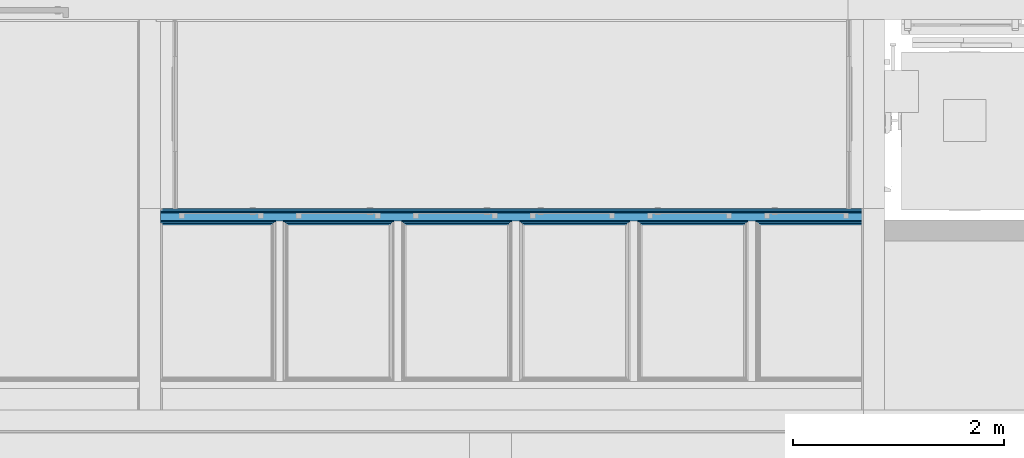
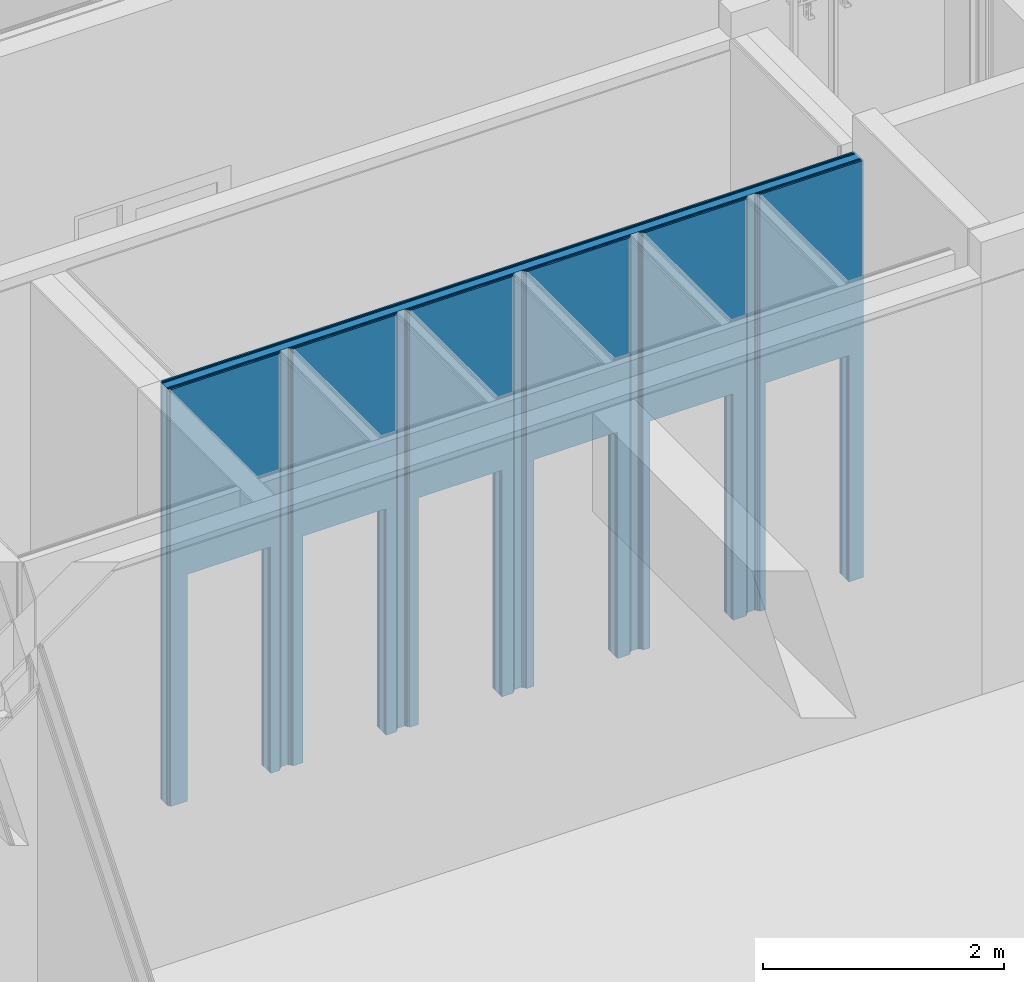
# One storey, part 115 of 260: 7 building element parts, 6 openings, 1 element without a shape of its own.
"""IFC2X3 building model written with IfcOpenShell, lengths in millimetres."""

from ifc_helpers import new_model, entity, si_unit, converted_unit, derived_unit, money_unit, direction, frame, origin_with_axes, place, context, subcontext, project, spatial, faceted_brep, material, type_object, element, aggregate, save


model = new_model("IFC2X3")

# Units and contexts
model_context = context("Model", 3, precision=0.01, world=origin_with_axes(), true_north=direction((0.0, 1.0)))
body_context = subcontext(model_context, "Body", "Model", "MODEL_VIEW")
ifc_project = project(units=[si_unit("LENGTHUNIT", "METRE", prefix="MILLI"), si_unit("AREAUNIT", "SQUARE_METRE"), si_unit("VOLUMEUNIT", "CUBIC_METRE"), converted_unit("PLANEANGLEUNIT", "DEGREE", entity("IfcPlaneAngleMeasure", 0.0174532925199), si_unit("PLANEANGLEUNIT", "RADIAN"), dimensions=[0, 0, 0, 0, 0, 0, 0]), money_unit("EUR"), converted_unit("TIMEUNIT", "Year", entity("IfcTimeMeasure", 31556926.0), si_unit("TIMEUNIT", "SECOND"), dimensions=[0, 0, 1, 0, 0, 0, 0]), si_unit("MASSUNIT", "GRAM", prefix="KILO"), si_unit("THERMODYNAMICTEMPERATUREUNIT", "DEGREE_CELSIUS"), si_unit("LUMINOUSINTENSITYUNIT", "LUMEN"), si_unit("ENERGYUNIT", "JOULE", prefix="MEGA"), derived_unit("THERMALCONDUCTANCEUNIT", [(si_unit("POWERUNIT", "WATT"), 1), (si_unit("LENGTHUNIT", "METRE"), -1), (si_unit("THERMODYNAMICTEMPERATUREUNIT", "KELVIN"), -1)]), derived_unit("SPECIFICHEATCAPACITYUNIT", [(si_unit("ENERGYUNIT", "JOULE"), 1), (si_unit("MASSUNIT", "GRAM", prefix="KILO"), -1), (si_unit("THERMODYNAMICTEMPERATUREUNIT", "KELVIN"), -1)]), derived_unit("MASSDENSITYUNIT", [(si_unit("MASSUNIT", "GRAM", prefix="KILO"), 1), (si_unit("VOLUMEUNIT", "CUBIC_METRE"), -1)])], contexts=[model_context])

# Site, building, storey
site_placement = place(None, origin_with_axes())
site = spatial("IfcSite", under=ifc_project, at=site_placement, Name="Kolde pst 67a", CompositionType="ELEMENT")
building_placement = place(site_placement, origin_with_axes())
building = spatial("IfcBuilding", under=site, at=building_placement, Name="Riigigümnaasium", CompositionType="ELEMENT")
storey_placement = place(building_placement, origin_with_axes())
storey = spatial("IfcBuildingStorey", under=building, at=storey_placement, Name="1. korrus", CompositionType="ELEMENT", Elevation=0.0)

# Wall, openings, building element parts
wall_type = type_object("IfcWallType", Name="SS-MK-7,5/1_plaaditud 155", PredefinedType="NOTDEFINED")
wall_placement = place(storey_placement, frame((39109.8305113, 47623.4999608, 0.0), z_axis=(0.0, 0.0, 1.0), x_axis=(1.0, 0.0, 0.0)))
wall = element("IfcWall", 1, at=wall_placement, inside=storey, type_object=wall_type, Name="Sisesein")
opening_1_placement = place(wall_placement, frame((6125.15494935, 0.0, 0.0), z_axis=(0.0, 0.0, 1.0), x_axis=(1.0, 0.0, 0.0)))
element("IfcOpeningElement", 2, at=opening_1_placement, cuts=wall, Name="Siseuks", context=body_context, shape_type="Brep", body=[
    faceted_brep([(400.0, -155.0, 2300.0), (400.0, -155.0, 0.0), (400.0, 310.0, 0.0), (400.0, 310.0, 2300.0), (-400.0, -155.0, 2300.0), (-400.0, -155.0, 0.0), (-400.0, 310.0, 0.0), (-400.0, 310.0, 2300.0)], [[[0, 1, 2, 3]], [[0, 4, 5, 1]], [[1, 5, 6, 2]], [[3, 2, 6, 7]], [[4, 0, 3, 7]], [[5, 4, 7, 6]]]),
])
opening_2_placement = place(wall_placement, frame((5015.15494935, 0.0, 0.0), z_axis=(0.0, 0.0, 1.0), x_axis=(1.0, 0.0, 0.0)))
element("IfcOpeningElement", 3, at=opening_2_placement, cuts=wall, Name="Siseuks", context=body_context, shape_type="Brep", body=[
    faceted_brep([(400.0, -155.0, 2300.0), (400.0, -155.0, 0.0), (400.0, 310.0, 0.0), (400.0, 310.0, 2300.0), (-400.0, -155.0, 2300.0), (-400.0, -155.0, 0.0), (-400.0, 310.0, 0.0), (-400.0, 310.0, 2300.0)], [[[0, 1, 2, 3]], [[0, 4, 5, 1]], [[1, 5, 6, 2]], [[3, 2, 6, 7]], [[4, 0, 3, 7]], [[5, 4, 7, 6]]]),
])
opening_3_placement = place(wall_placement, frame((3905.15494935, 0.0, 0.0), z_axis=(0.0, 0.0, 1.0), x_axis=(1.0, 0.0, 0.0)))
element("IfcOpeningElement", 4, at=opening_3_placement, cuts=wall, Name="Siseuks", context=body_context, shape_type="Brep", body=[
    faceted_brep([(400.0, -155.0, 2300.0), (400.0, -155.0, 0.0), (400.0, 310.0, 0.0), (400.0, 310.0, 2300.0), (-400.0, -155.0, 2300.0), (-400.0, -155.0, 0.0), (-400.0, 310.0, 0.0), (-400.0, 310.0, 2300.0)], [[[0, 1, 2, 3]], [[0, 4, 5, 1]], [[1, 5, 6, 2]], [[3, 2, 6, 7]], [[4, 0, 3, 7]], [[5, 4, 7, 6]]]),
])
opening_4_placement = place(wall_placement, frame((2795.15494935, 0.0, 0.0), z_axis=(0.0, 0.0, 1.0), x_axis=(1.0, 0.0, 0.0)))
element("IfcOpeningElement", 5, at=opening_4_placement, cuts=wall, Name="Siseuks", context=body_context, shape_type="Brep", body=[
    faceted_brep([(-400.0, 310.0, 2300.0), (-400.0, 310.0, 0.0), (-400.0, -155.0, 0.0), (-400.0, -155.0, 2300.0), (400.0, 310.0, 2300.0), (400.0, 310.0, 0.0), (400.0, -155.0, 0.0), (400.0, -155.0, 2300.0)], [[[0, 1, 2, 3]], [[0, 4, 5, 1]], [[1, 5, 6, 2]], [[3, 2, 6, 7]], [[4, 0, 3, 7]], [[5, 4, 7, 6]]]),
])
opening_5_placement = place(wall_placement, frame((1685.15494935, 0.0, 0.0), z_axis=(0.0, 0.0, 1.0), x_axis=(1.0, 0.0, 0.0)))
element("IfcOpeningElement", 6, at=opening_5_placement, cuts=wall, Name="Siseuks", context=body_context, shape_type="Brep", body=[
    faceted_brep([(-400.0, 310.0, 2300.0), (-400.0, 310.0, 0.0), (-400.0, -155.0, 0.0), (-400.0, -155.0, 2300.0), (400.0, 310.0, 2300.0), (400.0, 310.0, 0.0), (400.0, -155.0, 0.0), (400.0, -155.0, 2300.0)], [[[0, 1, 2, 3]], [[0, 4, 5, 1]], [[1, 5, 6, 2]], [[3, 2, 6, 7]], [[4, 0, 3, 7]], [[5, 4, 7, 6]]]),
])
opening_6_placement = place(wall_placement, frame((575.254222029, 0.0, 0.0), z_axis=(0.0, 0.0, 1.0), x_axis=(1.0, 0.0, 0.0)))
element("IfcOpeningElement", 7, at=opening_6_placement, cuts=wall, Name="Siseuks", context=body_context, shape_type="Brep", body=[
    faceted_brep([(-400.0, 310.0, 2300.0), (-400.0, 310.0, 0.0), (-400.0, -155.0, 0.0), (-400.0, -155.0, 2300.0), (400.0, 310.0, 2300.0), (400.0, 310.0, 0.0), (400.0, -155.0, 0.0), (400.0, -155.0, 2300.0)], [[[0, 1, 2, 3]], [[0, 4, 5, 1]], [[1, 5, 6, 2]], [[3, 2, 6, 7]], [[4, 0, 3, 7]], [[5, 4, 7, 6]]]),
])
ifc_material_1 = material(Name="_VIIMISTLUSKIHT - viimistlus vastavalt SA osale")
building_element_part_1_placement = place(wall_placement, origin_with_axes())
building_element_part_1 = element("IfcBuildingElementPart", 8, at=building_element_part_1_placement, material=ifc_material_1, Name="_VIIMISTLUSKIHT - viimistlus vastavalt SA osale", context=body_context, shape_type="Brep", body=[
    faceted_brep([(175.254222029, 155.0, 2300.0), (175.254222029, 155.0, 0.0), (15.0, 155.0, 0.0), (15.0, 155.0, 4230.0), (6665.15494935, 155.0, 4230.0), (6665.15494935, 155.0, 0.0), (6525.15494935, 155.0, 0.0), (6525.15494935, 155.0, 2300.0), (5725.15494935, 155.0, 2300.0), (5725.15494935, 155.0, 0.0), (5415.15494935, 155.0, 0.0), (5415.15494935, 155.0, 2300.0), (4615.15494935, 155.0, 2300.0), (4615.15494935, 155.0, 0.0), (4305.15494935, 155.0, 0.0), (4305.15494935, 155.0, 2300.0), (3505.15494935, 155.0, 2300.0), (3505.15494935, 155.0, 0.0), (3195.15494935, 155.0, 0.0), (3195.15494935, 155.0, 2300.0), (2395.15494935, 155.0, 2300.0), (2395.15494935, 155.0, 0.0), (2085.15494935, 155.0, 0.0), (2085.15494935, 155.0, 2300.0), (1285.15494935, 155.0, 2300.0), (1285.15494935, 155.0, 0.0), (975.254222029, 155.0, 0.0), (975.254222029, 155.0, 2300.0), (175.254222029, 140.0, 2300.0), (175.254222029, 140.0, 0.0), (15.0, 140.0, 0.0), (15.0, 140.0, 4230.0), (6665.15494935, 140.0, 4230.0), (6665.15494935, 140.0, 0.0), (6525.15494935, 140.0, 0.0), (6525.15494935, 140.0, 2300.0), (5725.15494935, 140.0, 2300.0), (5725.15494935, 140.0, 0.0), (5415.15494935, 140.0, 0.0), (5415.15494935, 140.0, 2300.0), (4615.15494935, 140.0, 2300.0), (4615.15494935, 140.0, 0.0), (4305.15494935, 140.0, 0.0), (4305.15494935, 140.0, 2300.0), (3505.15494935, 140.0, 2300.0), (3505.15494935, 140.0, 0.0), (3195.15494935, 140.0, 0.0), (3195.15494935, 140.0, 2300.0), (2395.15494935, 140.0, 2300.0), (2395.15494935, 140.0, 0.0), (2085.15494935, 140.0, 0.0), (2085.15494935, 140.0, 2300.0), (1285.15494935, 140.0, 2300.0), (1285.15494935, 140.0, 0.0), (975.254222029, 140.0, 0.0), (975.254222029, 140.0, 2300.0)], [[[0, 1, 2, 3, 4, 5, 6, 7, 8, 9, 10, 11, 12, 13, 14, 15, 16, 17, 18, 19, 20, 21, 22, 23, 24, 25, 26, 27]], [[1, 0, 28, 29]], [[1, 29, 30, 2]], [[2, 30, 31, 3]], [[3, 31, 32, 4]], [[33, 5, 4, 32]], [[6, 5, 33, 34]], [[6, 34, 35, 7]], [[7, 35, 36, 8]], [[8, 36, 37, 9]], [[38, 10, 9, 37]], [[11, 10, 38, 39]], [[12, 11, 39, 40]], [[13, 12, 40, 41]], [[41, 42, 14, 13]], [[43, 15, 14, 42]], [[44, 16, 15, 43]], [[45, 17, 16, 44]], [[17, 45, 46, 18]], [[46, 47, 19, 18]], [[47, 48, 20, 19]], [[48, 49, 21, 20]], [[22, 21, 49, 50]], [[22, 50, 51, 23]], [[23, 51, 52, 24]], [[24, 52, 53, 25]], [[54, 26, 25, 53]], [[27, 26, 54, 55]], [[0, 27, 55, 28]], [[55, 54, 53, 52, 51, 50, 49, 48, 47, 46, 45, 44, 43, 42, 41, 40, 39, 38, 37, 36, 35, 34, 33, 32, 31, 30, 29, 28]]]),
])
ifc_material_2 = material(Name="_PLAATMATERJAL - kipsplaat veekindel")
building_element_part_2_placement = place(wall_placement, origin_with_axes())
building_element_part_2 = element("IfcBuildingElementPart", 9, at=building_element_part_2_placement, material=ifc_material_2, Name="_PLAATMATERJAL - kipsplaat veekindel", context=body_context, shape_type="Brep", body=[
    faceted_brep([(175.254222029, 140.0, 2300.0), (175.254222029, 140.0, 0.0), (0.0, 140.0, 0.0), (0.0, 140.0, 4230.0), (6665.15494935, 140.0, 4230.0), (6665.15494935, 140.0, 0.0), (6525.15494935, 140.0, 0.0), (6525.15494935, 140.0, 2300.0), (5725.15494935, 140.0, 2300.0), (5725.15494935, 140.0, 0.0), (5415.15494935, 140.0, 0.0), (5415.15494935, 140.0, 2300.0), (4615.15494935, 140.0, 2300.0), (4615.15494935, 140.0, 0.0), (4305.15494935, 140.0, 0.0), (4305.15494935, 140.0, 2300.0), (3505.15494935, 140.0, 2300.0), (3505.15494935, 140.0, 0.0), (3195.15494935, 140.0, 0.0), (3195.15494935, 140.0, 2300.0), (2395.15494935, 140.0, 2300.0), (2395.15494935, 140.0, 0.0), (2085.15494935, 140.0, 0.0), (2085.15494935, 140.0, 2300.0), (1285.15494935, 140.0, 2300.0), (1285.15494935, 140.0, 0.0), (975.254222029, 140.0, 0.0), (975.254222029, 140.0, 2300.0), (175.254222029, 127.5, 2300.0), (175.254222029, 127.5, 0.0), (0.0, 127.5, 0.0), (0.0, 127.5, 4230.0), (6665.15494935, 127.5, 4230.0), (6665.15494935, 127.5, 0.0), (6525.15494935, 127.5, 0.0), (6525.15494935, 127.5, 2300.0), (5725.15494935, 127.5, 2300.0), (5725.15494935, 127.5, 0.0), (5415.15494935, 127.5, 0.0), (5415.15494935, 127.5, 2300.0), (4615.15494935, 127.5, 2300.0), (4615.15494935, 127.5, 0.0), (4305.15494935, 127.5, 0.0), (4305.15494935, 127.5, 2300.0), (3505.15494935, 127.5, 2300.0), (3505.15494935, 127.5, 0.0), (3195.15494935, 127.5, 0.0), (3195.15494935, 127.5, 2300.0), (2395.15494935, 127.5, 2300.0), (2395.15494935, 127.5, 0.0), (2085.15494935, 127.5, 0.0), (2085.15494935, 127.5, 2300.0), (1285.15494935, 127.5, 2300.0), (1285.15494935, 127.5, 0.0), (975.254222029, 127.5, 0.0), (975.254222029, 127.5, 2300.0)], [[[0, 1, 2, 3, 4, 5, 6, 7, 8, 9, 10, 11, 12, 13, 14, 15, 16, 17, 18, 19, 20, 21, 22, 23, 24, 25, 26, 27]], [[1, 0, 28, 29]], [[1, 29, 30, 2]], [[2, 30, 31, 3]], [[3, 31, 32, 4]], [[33, 5, 4, 32]], [[6, 5, 33, 34]], [[6, 34, 35, 7]], [[7, 35, 36, 8]], [[8, 36, 37, 9]], [[38, 10, 9, 37]], [[11, 10, 38, 39]], [[12, 11, 39, 40]], [[13, 12, 40, 41]], [[41, 42, 14, 13]], [[43, 15, 14, 42]], [[44, 16, 15, 43]], [[45, 17, 16, 44]], [[17, 45, 46, 18]], [[46, 47, 19, 18]], [[47, 48, 20, 19]], [[48, 49, 21, 20]], [[22, 21, 49, 50]], [[22, 50, 51, 23]], [[23, 51, 52, 24]], [[24, 52, 53, 25]], [[54, 26, 25, 53]], [[27, 26, 54, 55]], [[0, 27, 55, 28]], [[55, 54, 53, 52, 51, 50, 49, 48, 47, 46, 45, 44, 43, 42, 41, 40, 39, 38, 37, 36, 35, 34, 33, 32, 31, 30, 29, 28]]]),
])
building_element_part_3_placement = place(wall_placement, origin_with_axes())
building_element_part_3 = element("IfcBuildingElementPart", 10, at=building_element_part_3_placement, material=ifc_material_2, Name="_PLAATMATERJAL - kipsplaat veekindel", context=body_context, shape_type="Brep", body=[
    faceted_brep([(175.254222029, 127.5, 2300.0), (175.254222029, 127.5, 0.0), (0.0, 127.5, 0.0), (0.0, 127.5, 4230.0), (6665.15494935, 127.5, 4230.0), (6665.15494935, 127.5, 0.0), (6525.15494935, 127.5, 0.0), (6525.15494935, 127.5, 2300.0), (5725.15494935, 127.5, 2300.0), (5725.15494935, 127.5, 0.0), (5415.15494935, 127.5, 0.0), (5415.15494935, 127.5, 2300.0), (4615.15494935, 127.5, 2300.0), (4615.15494935, 127.5, 0.0), (4305.15494935, 127.5, 0.0), (4305.15494935, 127.5, 2300.0), (3505.15494935, 127.5, 2300.0), (3505.15494935, 127.5, 0.0), (3195.15494935, 127.5, 0.0), (3195.15494935, 127.5, 2300.0), (2395.15494935, 127.5, 2300.0), (2395.15494935, 127.5, 0.0), (2085.15494935, 127.5, 0.0), (2085.15494935, 127.5, 2300.0), (1285.15494935, 127.5, 2300.0), (1285.15494935, 127.5, 0.0), (975.254222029, 127.5, 0.0), (975.254222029, 127.5, 2300.0), (175.254222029, 115.0, 2300.0), (175.254222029, 115.0, 0.0), (0.0, 115.0, 0.0), (0.0, 115.0, 4230.0), (6665.15494935, 115.0, 4230.0), (6665.15494935, 115.0, 0.0), (6525.15494935, 115.0, 0.0), (6525.15494935, 115.0, 2300.0), (5725.15494935, 115.0, 2300.0), (5725.15494935, 115.0, 0.0), (5415.15494935, 115.0, 0.0), (5415.15494935, 115.0, 2300.0), (4615.15494935, 115.0, 2300.0), (4615.15494935, 115.0, 0.0), (4305.15494935, 115.0, 0.0), (4305.15494935, 115.0, 2300.0), (3505.15494935, 115.0, 2300.0), (3505.15494935, 115.0, 0.0), (3195.15494935, 115.0, 0.0), (3195.15494935, 115.0, 2300.0), (2395.15494935, 115.0, 2300.0), (2395.15494935, 115.0, 0.0), (2085.15494935, 115.0, 0.0), (2085.15494935, 115.0, 2300.0), (1285.15494935, 115.0, 2300.0), (1285.15494935, 115.0, 0.0), (975.254222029, 115.0, 0.0), (975.254222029, 115.0, 2300.0)], [[[0, 1, 2, 3, 4, 5, 6, 7, 8, 9, 10, 11, 12, 13, 14, 15, 16, 17, 18, 19, 20, 21, 22, 23, 24, 25, 26, 27]], [[1, 0, 28, 29]], [[1, 29, 30, 2]], [[2, 30, 31, 3]], [[3, 31, 32, 4]], [[33, 5, 4, 32]], [[6, 5, 33, 34]], [[6, 34, 35, 7]], [[7, 35, 36, 8]], [[8, 36, 37, 9]], [[38, 10, 9, 37]], [[11, 10, 38, 39]], [[12, 11, 39, 40]], [[13, 12, 40, 41]], [[41, 42, 14, 13]], [[43, 15, 14, 42]], [[44, 16, 15, 43]], [[45, 17, 16, 44]], [[17, 45, 46, 18]], [[46, 47, 19, 18]], [[47, 48, 20, 19]], [[48, 49, 21, 20]], [[22, 21, 49, 50]], [[22, 50, 51, 23]], [[23, 51, 52, 24]], [[24, 52, 53, 25]], [[54, 26, 25, 53]], [[27, 26, 54, 55]], [[0, 27, 55, 28]], [[55, 54, 53, 52, 51, 50, 49, 48, 47, 46, 45, 44, 43, 42, 41, 40, 39, 38, 37, 36, 35, 34, 33, 32, 31, 30, 29, 28]]]),
])
ifc_material_3 = material(Name="_KARKASS - metallkarkass CW 75/50, mineraalvill karkassi vahel")
building_element_part_4_placement = place(wall_placement, origin_with_axes())
building_element_part_4 = element("IfcBuildingElementPart", 11, at=building_element_part_4_placement, material=ifc_material_3, Name="_KARKASS - metallkarkass CW 75/50, mineraalvill karkassi vahel", context=body_context, shape_type="Brep", body=[
    faceted_brep([(175.254222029, 115.0, 2300.0), (175.254222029, 115.0, 0.0), (0.0, 115.0, 0.0), (0.0, 115.0, 4230.0), (6665.15494935, 115.0, 4230.0), (6665.15494935, 115.0, 0.0), (6525.15494935, 115.0, 0.0), (6525.15494935, 115.0, 2300.0), (5725.15494935, 115.0, 2300.0), (5725.15494935, 115.0, 0.0), (5415.15494935, 115.0, 0.0), (5415.15494935, 115.0, 2300.0), (4615.15494935, 115.0, 2300.0), (4615.15494935, 115.0, 0.0), (4305.15494935, 115.0, 0.0), (4305.15494935, 115.0, 2300.0), (3505.15494935, 115.0, 2300.0), (3505.15494935, 115.0, 0.0), (3195.15494935, 115.0, 0.0), (3195.15494935, 115.0, 2300.0), (2395.15494935, 115.0, 2300.0), (2395.15494935, 115.0, 0.0), (2085.15494935, 115.0, 0.0), (2085.15494935, 115.0, 2300.0), (1285.15494935, 115.0, 2300.0), (1285.15494935, 115.0, 0.0), (975.254222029, 115.0, 0.0), (975.254222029, 115.0, 2300.0), (175.254222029, 40.0, 2300.0), (175.254222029, 40.0, 0.0), (0.0, 40.0, 0.0), (0.0, 40.0, 4230.0), (6665.15494935, 40.0, 4230.0), (6665.15494935, 40.0, 0.0), (6525.15494935, 40.0, 0.0), (6525.15494935, 40.0, 2300.0), (5725.15494935, 40.0, 2300.0), (5725.15494935, 40.0, 0.0), (5415.15494935, 40.0, 0.0), (5415.15494935, 40.0, 2300.0), (4615.15494935, 40.0, 2300.0), (4615.15494935, 40.0, 0.0), (4305.15494935, 40.0, 0.0), (4305.15494935, 40.0, 2300.0), (3505.15494935, 40.0, 2300.0), (3505.15494935, 40.0, 0.0), (3195.15494935, 40.0, 0.0), (3195.15494935, 40.0, 2300.0), (2395.15494935, 40.0, 2300.0), (2395.15494935, 40.0, 0.0), (2085.15494935, 40.0, 0.0), (2085.15494935, 40.0, 2300.0), (1285.15494935, 40.0, 2300.0), (1285.15494935, 40.0, 0.0), (975.254222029, 40.0, 0.0), (975.254222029, 40.0, 2300.0)], [[[0, 1, 2, 3, 4, 5, 6, 7, 8, 9, 10, 11, 12, 13, 14, 15, 16, 17, 18, 19, 20, 21, 22, 23, 24, 25, 26, 27]], [[1, 0, 28, 29]], [[1, 29, 30, 2]], [[2, 30, 31, 3]], [[3, 31, 32, 4]], [[33, 5, 4, 32]], [[6, 5, 33, 34]], [[6, 34, 35, 7]], [[7, 35, 36, 8]], [[8, 36, 37, 9]], [[38, 10, 9, 37]], [[11, 10, 38, 39]], [[12, 11, 39, 40]], [[13, 12, 40, 41]], [[41, 42, 14, 13]], [[43, 15, 14, 42]], [[44, 16, 15, 43]], [[45, 17, 16, 44]], [[17, 45, 46, 18]], [[46, 47, 19, 18]], [[47, 48, 20, 19]], [[48, 49, 21, 20]], [[22, 21, 49, 50]], [[22, 50, 51, 23]], [[23, 51, 52, 24]], [[24, 52, 53, 25]], [[54, 26, 25, 53]], [[27, 26, 54, 55]], [[0, 27, 55, 28]], [[55, 54, 53, 52, 51, 50, 49, 48, 47, 46, 45, 44, 43, 42, 41, 40, 39, 38, 37, 36, 35, 34, 33, 32, 31, 30, 29, 28]]]),
])
building_element_part_5_placement = place(wall_placement, origin_with_axes())
building_element_part_5 = element("IfcBuildingElementPart", 12, at=building_element_part_5_placement, material=ifc_material_2, Name="_PLAATMATERJAL - kipsplaat veekindel", context=body_context, shape_type="Brep", body=[
    faceted_brep([(175.254222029, 40.0, 2300.0), (175.254222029, 40.0, 0.0), (0.0, 40.0, 0.0), (0.0, 40.0, 4230.0), (1090.15494935, 40.0, 4230.0), (1090.15494935, 40.0, 0.0), (975.254222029, 40.0, 0.0), (975.254222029, 40.0, 2300.0), (175.254222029, 27.5, 2300.0), (175.254222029, 27.5, 0.0), (0.0, 27.5, 0.0), (0.0, 27.5, 4230.0), (1090.15494935, 27.5, 4230.0), (1090.15494935, 27.5, 0.0), (975.254222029, 27.5, 0.0), (975.254222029, 27.5, 2300.0)], [[[0, 1, 2, 3, 4, 5, 6, 7]], [[1, 0, 8, 9]], [[1, 9, 10, 2]], [[3, 2, 10, 11]], [[4, 3, 11, 12]], [[12, 13, 5, 4]], [[14, 6, 5, 13]], [[7, 6, 14, 15]], [[0, 7, 15, 8]], [[15, 14, 13, 12, 11, 10, 9, 8]]]),
    faceted_brep([(1285.15494935, 40.0, 2300.0), (1285.15494935, 40.0, 0.0), (1165.15494935, 40.0, 0.0), (1165.15494935, 40.0, 4230.0), (2210.15494935, 40.0, 4230.0), (2210.15494935, 40.0, 0.0), (2085.15494935, 40.0, 0.0), (2085.15494935, 40.0, 2300.0), (1285.15494935, 27.5, 2300.0), (1285.15494935, 27.5, 0.0), (1165.15494935, 27.5, 0.0), (1165.15494935, 27.5, 4230.0), (2210.15494935, 27.5, 4230.0), (2210.15494935, 27.5, 0.0), (2085.15494935, 27.5, 0.0), (2085.15494935, 27.5, 2300.0)], [[[0, 1, 2, 3, 4, 5, 6, 7]], [[1, 0, 8, 9]], [[1, 9, 10, 2]], [[3, 2, 10, 11]], [[4, 3, 11, 12]], [[12, 13, 5, 4]], [[14, 6, 5, 13]], [[7, 6, 14, 15]], [[0, 7, 15, 8]], [[15, 14, 13, 12, 11, 10, 9, 8]]]),
    faceted_brep([(2395.15494935, 40.0, 2300.0), (2395.15494935, 40.0, 0.0), (2285.15494935, 40.0, 0.0), (2285.15494935, 40.0, 4230.0), (3330.15494935, 40.0, 4230.0), (3330.15494935, 40.0, 0.0), (3195.15494935, 40.0, 0.0), (3195.15494935, 40.0, 2300.0), (2395.15494935, 27.5, 2300.0), (2395.15494935, 27.5, 0.0), (2285.15494935, 27.5, 0.0), (2285.15494935, 27.5, 4230.0), (3330.15494935, 27.5, 4230.0), (3330.15494935, 27.5, 0.0), (3195.15494935, 27.5, 0.0), (3195.15494935, 27.5, 2300.0)], [[[0, 1, 2, 3, 4, 5, 6, 7]], [[1, 0, 8, 9]], [[1, 9, 10, 2]], [[3, 2, 10, 11]], [[4, 3, 11, 12]], [[12, 13, 5, 4]], [[14, 6, 5, 13]], [[7, 6, 14, 15]], [[0, 7, 15, 8]], [[15, 14, 13, 12, 11, 10, 9, 8]]]),
    faceted_brep([(3505.15494935, 40.0, 2300.0), (3505.15494935, 40.0, 0.0), (3405.15494935, 40.0, 0.0), (3405.15494935, 40.0, 4230.0), (4450.15494935, 40.0, 4230.0), (4450.15494935, 40.0, 0.0), (4305.15494935, 40.0, 0.0), (4305.15494935, 40.0, 2300.0), (3505.15494935, 27.5, 2300.0), (3505.15494935, 27.5, 0.0), (3405.15494935, 27.5, 0.0), (3405.15494935, 27.5, 4230.0), (4450.15494935, 27.5, 4230.0), (4450.15494935, 27.5, 0.0), (4305.15494935, 27.5, 0.0), (4305.15494935, 27.5, 2300.0)], [[[0, 1, 2, 3, 4, 5, 6, 7]], [[1, 0, 8, 9]], [[1, 9, 10, 2]], [[3, 2, 10, 11]], [[4, 3, 11, 12]], [[12, 13, 5, 4]], [[14, 6, 5, 13]], [[7, 6, 14, 15]], [[0, 7, 15, 8]], [[15, 14, 13, 12, 11, 10, 9, 8]]]),
    faceted_brep([(4615.15494935, 40.0, 2300.0), (4615.15494935, 40.0, 0.0), (4525.15494935, 40.0, 0.0), (4525.15494935, 40.0, 4230.0), (5570.15494935, 40.0, 4230.0), (5570.15494935, 40.0, 0.0), (5415.15494935, 40.0, 0.0), (5415.15494935, 40.0, 2300.0), (4615.15494935, 27.5, 2300.0), (4615.15494935, 27.5, 0.0), (4525.15494935, 27.5, 0.0), (4525.15494935, 27.5, 4230.0), (5570.15494935, 27.5, 4230.0), (5570.15494935, 27.5, 0.0), (5415.15494935, 27.5, 0.0), (5415.15494935, 27.5, 2300.0)], [[[0, 1, 2, 3, 4, 5, 6, 7]], [[1, 0, 8, 9]], [[1, 9, 10, 2]], [[3, 2, 10, 11]], [[4, 3, 11, 12]], [[12, 13, 5, 4]], [[14, 6, 5, 13]], [[7, 6, 14, 15]], [[0, 7, 15, 8]], [[15, 14, 13, 12, 11, 10, 9, 8]]]),
    faceted_brep([(5725.15494935, 40.0, 2300.0), (5725.15494935, 40.0, 0.0), (5645.15494935, 40.0, 0.0), (5645.15494935, 40.0, 4230.0), (6665.15494935, 40.0, 4230.0), (6665.15494935, 40.0, 0.0), (6525.15494935, 40.0, 0.0), (6525.15494935, 40.0, 2300.0), (5725.15494935, 27.5, 2300.0), (5725.15494935, 27.5, 0.0), (5645.15494935, 27.5, 0.0), (5645.15494935, 27.5, 4230.0), (6665.15494935, 27.5, 4230.0), (6665.15494935, 27.5, 0.0), (6525.15494935, 27.5, 0.0), (6525.15494935, 27.5, 2300.0)], [[[0, 1, 2, 3, 4, 5, 6, 7]], [[1, 0, 8, 9]], [[1, 9, 10, 2]], [[3, 2, 10, 11]], [[4, 3, 11, 12]], [[12, 13, 5, 4]], [[14, 6, 5, 13]], [[7, 6, 14, 15]], [[0, 7, 15, 8]], [[15, 14, 13, 12, 11, 10, 9, 8]]]),
])
building_element_part_6_placement = place(wall_placement, origin_with_axes())
building_element_part_6 = element("IfcBuildingElementPart", 13, at=building_element_part_6_placement, material=ifc_material_2, Name="_PLAATMATERJAL - kipsplaat veekindel", context=body_context, shape_type="Brep", body=[
    faceted_brep([(175.254222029, 27.5, 2300.0), (175.254222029, 27.5, 0.0), (0.0, 27.5, 0.0), (0.0, 27.5, 4230.0), (1077.65494935, 27.5, 4230.0), (1077.65494935, 27.5, 0.0), (975.254222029, 27.5, 0.0), (975.254222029, 27.5, 2300.0), (175.254222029, 15.0, 2300.0), (175.254222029, 15.0, 0.0), (0.0, 15.0, 0.0), (0.0, 15.0, 4230.0), (1077.65494935, 15.0, 4230.0), (1077.65494935, 15.0, 0.0), (975.254222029, 15.0, 0.0), (975.254222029, 15.0, 2300.0)], [[[0, 1, 2, 3, 4, 5, 6, 7]], [[1, 0, 8, 9]], [[1, 9, 10, 2]], [[3, 2, 10, 11]], [[4, 3, 11, 12]], [[12, 13, 5, 4]], [[14, 6, 5, 13]], [[7, 6, 14, 15]], [[0, 7, 15, 8]], [[15, 14, 13, 12, 11, 10, 9, 8]]]),
    faceted_brep([(1285.15494935, 27.5, 2300.0), (1285.15494935, 27.5, 0.0), (1177.65494935, 27.5, 0.0), (1177.65494935, 27.5, 4230.0), (2197.65494935, 27.5, 4230.0), (2197.65494935, 27.5, 0.0), (2085.15494935, 27.5, 0.0), (2085.15494935, 27.5, 2300.0), (1285.15494935, 15.0, 2300.0), (1285.15494935, 15.0, 0.0), (1177.65494935, 15.0, 0.0), (1177.65494935, 15.0, 4230.0), (2197.65494935, 15.0, 4230.0), (2197.65494935, 15.0, 0.0), (2085.15494935, 15.0, 0.0), (2085.15494935, 15.0, 2300.0)], [[[0, 1, 2, 3, 4, 5, 6, 7]], [[1, 0, 8, 9]], [[1, 9, 10, 2]], [[3, 2, 10, 11]], [[4, 3, 11, 12]], [[12, 13, 5, 4]], [[14, 6, 5, 13]], [[7, 6, 14, 15]], [[0, 7, 15, 8]], [[15, 14, 13, 12, 11, 10, 9, 8]]]),
    faceted_brep([(2395.15494935, 27.5, 2300.0), (2395.15494935, 27.5, 0.0), (2297.65494935, 27.5, 0.0), (2297.65494935, 27.5, 4230.0), (3317.65494935, 27.5, 4230.0), (3317.65494935, 27.5, 0.0), (3195.15494935, 27.5, 0.0), (3195.15494935, 27.5, 2300.0), (2395.15494935, 15.0, 2300.0), (2395.15494935, 15.0, 0.0), (2297.65494935, 15.0, 0.0), (2297.65494935, 15.0, 4230.0), (3317.65494935, 15.0, 4230.0), (3317.65494935, 15.0, 0.0), (3195.15494935, 15.0, 0.0), (3195.15494935, 15.0, 2300.0)], [[[0, 1, 2, 3, 4, 5, 6, 7]], [[1, 0, 8, 9]], [[1, 9, 10, 2]], [[3, 2, 10, 11]], [[4, 3, 11, 12]], [[12, 13, 5, 4]], [[14, 6, 5, 13]], [[7, 6, 14, 15]], [[0, 7, 15, 8]], [[15, 14, 13, 12, 11, 10, 9, 8]]]),
    faceted_brep([(3505.15494935, 27.5, 2300.0), (3505.15494935, 27.5, 0.0), (3417.65494935, 27.5, 0.0), (3417.65494935, 27.5, 4230.0), (4437.65494935, 27.5, 4230.0), (4437.65494935, 27.5, 0.0), (4305.15494935, 27.5, 0.0), (4305.15494935, 27.5, 2300.0), (3505.15494935, 15.0, 2300.0), (3505.15494935, 15.0, 0.0), (3417.65494935, 15.0, 0.0), (3417.65494935, 15.0, 4230.0), (4437.65494935, 15.0, 4230.0), (4437.65494935, 15.0, 0.0), (4305.15494935, 15.0, 0.0), (4305.15494935, 15.0, 2300.0)], [[[0, 1, 2, 3, 4, 5, 6, 7]], [[1, 0, 8, 9]], [[1, 9, 10, 2]], [[3, 2, 10, 11]], [[4, 3, 11, 12]], [[12, 13, 5, 4]], [[14, 6, 5, 13]], [[7, 6, 14, 15]], [[0, 7, 15, 8]], [[15, 14, 13, 12, 11, 10, 9, 8]]]),
    faceted_brep([(4615.15494935, 27.5, 2300.0), (4615.15494935, 27.5, 0.0), (4537.65494935, 27.5, 0.0), (4537.65494935, 27.5, 4230.0), (5557.65494935, 27.5, 4230.0), (5557.65494935, 27.5, 0.0), (5415.15494935, 27.5, 0.0), (5415.15494935, 27.5, 2300.0), (4615.15494935, 15.0, 2300.0), (4615.15494935, 15.0, 0.0), (4537.65494935, 15.0, 0.0), (4537.65494935, 15.0, 4230.0), (5557.65494935, 15.0, 4230.0), (5557.65494935, 15.0, 0.0), (5415.15494935, 15.0, 0.0), (5415.15494935, 15.0, 2300.0)], [[[0, 1, 2, 3, 4, 5, 6, 7]], [[1, 0, 8, 9]], [[1, 9, 10, 2]], [[3, 2, 10, 11]], [[4, 3, 11, 12]], [[12, 13, 5, 4]], [[14, 6, 5, 13]], [[7, 6, 14, 15]], [[0, 7, 15, 8]], [[15, 14, 13, 12, 11, 10, 9, 8]]]),
    faceted_brep([(5725.15494935, 27.5, 2300.0), (5725.15494935, 27.5, 0.0), (5657.65494935, 27.5, 0.0), (5657.65494935, 27.5, 4230.0), (6665.15494935, 27.5, 4230.0), (6665.15494935, 27.5, 0.0), (6525.15494935, 27.5, 0.0), (6525.15494935, 27.5, 2300.0), (5725.15494935, 15.0, 2300.0), (5725.15494935, 15.0, 0.0), (5657.65494935, 15.0, 0.0), (5657.65494935, 15.0, 4230.0), (6665.15494935, 15.0, 4230.0), (6665.15494935, 15.0, 0.0), (6525.15494935, 15.0, 0.0), (6525.15494935, 15.0, 2300.0)], [[[0, 1, 2, 3, 4, 5, 6, 7]], [[1, 0, 8, 9]], [[1, 9, 10, 2]], [[3, 2, 10, 11]], [[4, 3, 11, 12]], [[12, 13, 5, 4]], [[14, 6, 5, 13]], [[7, 6, 14, 15]], [[0, 7, 15, 8]], [[15, 14, 13, 12, 11, 10, 9, 8]]]),
])
building_element_part_7_placement = place(wall_placement, origin_with_axes())
building_element_part_7 = element("IfcBuildingElementPart", 14, at=building_element_part_7_placement, material=ifc_material_1, Name="_VIIMISTLUSKIHT - viimistlus vastavalt SA osale", context=body_context, shape_type="Brep", body=[
    faceted_brep([(175.254222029, 15.0, 2300.0), (175.254222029, 15.0, 0.0), (15.0, 15.0, 0.0), (15.0, 15.0, 4230.0), (1065.15494935, 15.0, 4230.0), (1065.15494935, 15.0, 0.0), (975.254222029, 15.0, 0.0), (975.254222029, 15.0, 2300.0), (175.254222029, 0.0, 2300.0), (175.254222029, 0.0, 0.0), (15.0, 0.0, 0.0), (15.0, 0.0, 4230.0), (1065.15494935, 0.0, 4230.0), (1065.15494935, 0.0, 0.0), (975.254222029, 0.0, 0.0), (975.254222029, 0.0, 2300.0)], [[[0, 1, 2, 3, 4, 5, 6, 7]], [[1, 0, 8, 9]], [[1, 9, 10, 2]], [[3, 2, 10, 11]], [[4, 3, 11, 12]], [[12, 13, 5, 4]], [[14, 6, 5, 13]], [[7, 6, 14, 15]], [[0, 7, 15, 8]], [[15, 14, 13, 12, 11, 10, 9, 8]]]),
    faceted_brep([(1285.15494935, 15.0, 2300.0), (1285.15494935, 15.0, 0.0), (1190.15494935, 15.0, 0.0), (1190.15494935, 15.0, 4230.0), (2185.15494935, 15.0, 4230.0), (2185.15494935, 15.0, 0.0), (2085.15494935, 15.0, 0.0), (2085.15494935, 15.0, 2300.0), (1285.15494935, 0.0, 2300.0), (1285.15494935, 0.0, 0.0), (1190.15494935, 0.0, 0.0), (1190.15494935, 0.0, 4230.0), (2185.15494935, 0.0, 4230.0), (2185.15494935, 0.0, 0.0), (2085.15494935, 0.0, 0.0), (2085.15494935, 0.0, 2300.0)], [[[0, 1, 2, 3, 4, 5, 6, 7]], [[1, 0, 8, 9]], [[1, 9, 10, 2]], [[3, 2, 10, 11]], [[4, 3, 11, 12]], [[12, 13, 5, 4]], [[14, 6, 5, 13]], [[7, 6, 14, 15]], [[0, 7, 15, 8]], [[15, 14, 13, 12, 11, 10, 9, 8]]]),
    faceted_brep([(2395.15494935, 15.0, 2300.0), (2395.15494935, 15.0, 0.0), (2310.15494935, 15.0, 0.0), (2310.15494935, 15.0, 4230.0), (3305.15494935, 15.0, 4230.0), (3305.15494935, 15.0, 0.0), (3195.15494935, 15.0, 0.0), (3195.15494935, 15.0, 2300.0), (2395.15494935, 0.0, 2300.0), (2395.15494935, 0.0, 0.0), (2310.15494935, 0.0, 0.0), (2310.15494935, 0.0, 4230.0), (3305.15494935, 0.0, 4230.0), (3305.15494935, 0.0, 0.0), (3195.15494935, 0.0, 0.0), (3195.15494935, 0.0, 2300.0)], [[[0, 1, 2, 3, 4, 5, 6, 7]], [[1, 0, 8, 9]], [[1, 9, 10, 2]], [[3, 2, 10, 11]], [[4, 3, 11, 12]], [[12, 13, 5, 4]], [[14, 6, 5, 13]], [[7, 6, 14, 15]], [[0, 7, 15, 8]], [[15, 14, 13, 12, 11, 10, 9, 8]]]),
    faceted_brep([(3505.15494935, 15.0, 2300.0), (3505.15494935, 15.0, 0.0), (3430.15494935, 15.0, 0.0), (3430.15494935, 15.0, 4230.0), (4425.15494935, 15.0, 4230.0), (4425.15494935, 15.0, 0.0), (4305.15494935, 15.0, 0.0), (4305.15494935, 15.0, 2300.0), (3505.15494935, 0.0, 2300.0), (3505.15494935, 0.0, 0.0), (3430.15494935, 0.0, 0.0), (3430.15494935, 0.0, 4230.0), (4425.15494935, 0.0, 4230.0), (4425.15494935, 0.0, 0.0), (4305.15494935, 0.0, 0.0), (4305.15494935, 0.0, 2300.0)], [[[0, 1, 2, 3, 4, 5, 6, 7]], [[1, 0, 8, 9]], [[1, 9, 10, 2]], [[3, 2, 10, 11]], [[4, 3, 11, 12]], [[12, 13, 5, 4]], [[14, 6, 5, 13]], [[7, 6, 14, 15]], [[0, 7, 15, 8]], [[15, 14, 13, 12, 11, 10, 9, 8]]]),
    faceted_brep([(4615.15494935, 15.0, 2300.0), (4615.15494935, 15.0, 0.0), (4550.15494935, 15.0, 0.0), (4550.15494935, 15.0, 4230.0), (5545.15494935, 15.0, 4230.0), (5545.15494935, 15.0, 0.0), (5415.15494935, 15.0, 0.0), (5415.15494935, 15.0, 2300.0), (4615.15494935, 0.0, 2300.0), (4615.15494935, 0.0, 0.0), (4550.15494935, 0.0, 0.0), (4550.15494935, 0.0, 4230.0), (5545.15494935, 0.0, 4230.0), (5545.15494935, 0.0, 0.0), (5415.15494935, 0.0, 0.0), (5415.15494935, 0.0, 2300.0)], [[[0, 1, 2, 3, 4, 5, 6, 7]], [[1, 0, 8, 9]], [[1, 9, 10, 2]], [[3, 2, 10, 11]], [[4, 3, 11, 12]], [[12, 13, 5, 4]], [[14, 6, 5, 13]], [[7, 6, 14, 15]], [[0, 7, 15, 8]], [[15, 14, 13, 12, 11, 10, 9, 8]]]),
    faceted_brep([(5725.15494935, 15.0, 2300.0), (5725.15494935, 15.0, 0.0), (5670.15494935, 15.0, 0.0), (5670.15494935, 15.0, 4230.0), (6665.15494935, 15.0, 4230.0), (6665.15494935, 15.0, 0.0), (6525.15494935, 15.0, 0.0), (6525.15494935, 15.0, 2300.0), (5725.15494935, 0.0, 2300.0), (5725.15494935, 0.0, 0.0), (5670.15494935, 0.0, 0.0), (5670.15494935, 0.0, 4230.0), (6665.15494935, 0.0, 4230.0), (6665.15494935, 0.0, 0.0), (6525.15494935, 0.0, 0.0), (6525.15494935, 0.0, 2300.0)], [[[0, 1, 2, 3, 4, 5, 6, 7]], [[1, 0, 8, 9]], [[1, 9, 10, 2]], [[3, 2, 10, 11]], [[4, 3, 11, 12]], [[12, 13, 5, 4]], [[14, 6, 5, 13]], [[7, 6, 14, 15]], [[0, 7, 15, 8]], [[15, 14, 13, 12, 11, 10, 9, 8]]]),
])
aggregate(wall, [building_element_part_1, building_element_part_2, building_element_part_3, building_element_part_4, building_element_part_5, building_element_part_6, building_element_part_7])

save(model, "model.ifc")
